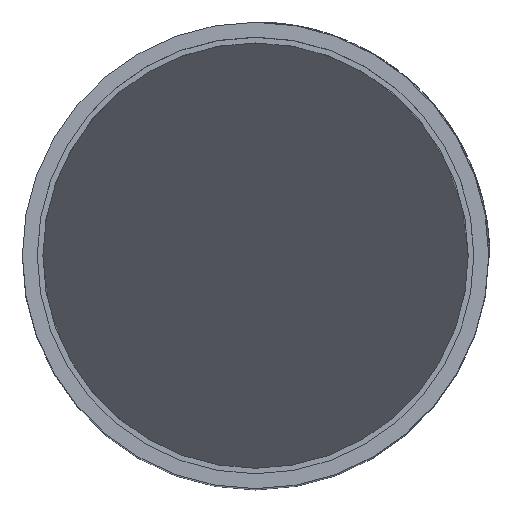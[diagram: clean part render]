
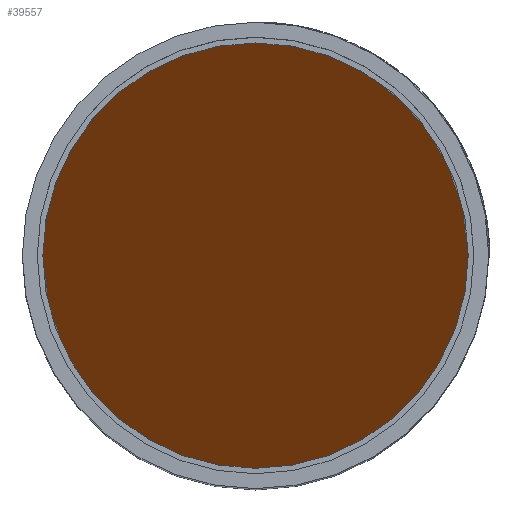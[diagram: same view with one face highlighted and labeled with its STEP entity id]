
A CAD part, top view. The second image highlights one B-rep face of the part: STEP entity #39557.
In plain terms, the highlighted planar face has unit normal (0, -0.707, 0.707).
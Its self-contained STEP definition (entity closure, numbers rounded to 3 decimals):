
#12275 = CARTESIAN_POINT ( 'NONE',  ( 114., 0., 207.828 ) ) ;
#13927 = CARTESIAN_POINT ( 'NONE',  ( 114., 0., 207.828 ) ) ;
#17048 = CARTESIAN_POINT ( 'NONE',  ( 114., -228., -20.172 ) ) ;
#18632 = PLANE ( 'NONE',  #53250 ) ;
#19890 =( BOUNDED_CURVE ( )  B_SPLINE_CURVE ( 3, ( #13927, #38337, #37550, #62822 ),
 .UNSPECIFIED., .F., .F. ) 
 B_SPLINE_CURVE_WITH_KNOTS ( ( 4, 4 ),
 ( 1.571, 4.712 ),
 .UNSPECIFIED. ) 
 CURVE ( )  GEOMETRIC_REPRESENTATION_ITEM ( )  RATIONAL_B_SPLINE_CURVE ( ( 1., 0.333, 0.333, 1. ) ) 
 REPRESENTATION_ITEM ( '' )  );
#23482 = CARTESIAN_POINT ( 'NONE',  ( 356.532, -103.914, 103.914 ) ) ;
#28558 =( BOUNDED_CURVE ( )  B_SPLINE_CURVE ( 3, ( #41877, #42683, #17048, #12275 ),
 .UNSPECIFIED., .F., .T. ) 
 B_SPLINE_CURVE_WITH_KNOTS ( ( 4, 4 ),
 ( 4.712, 7.854 ),
 .UNSPECIFIED. ) 
 CURVE ( )  GEOMETRIC_REPRESENTATION_ITEM ( )  RATIONAL_B_SPLINE_CURVE ( ( 1., 0.333, 0.333, 1. ) ) 
 REPRESENTATION_ITEM ( '' )  );
#29317 = EDGE_LOOP ( 'NONE', ( #38486, #76105 ) ) ;
#37550 = CARTESIAN_POINT ( 'NONE',  ( -114., 228., 435.828 ) ) ;
#38337 = CARTESIAN_POINT ( 'NONE',  ( 114., 228., 435.828 ) ) ;
#38486 = ORIENTED_EDGE ( 'NONE', *, *, #41211, .T. ) ;
#39557 = ADVANCED_FACE ( 'NONE', ( #73255 ), #18632, .F. ) ;
#40068 = VERTEX_POINT ( 'NONE', #62599 ) ;
#41211 = EDGE_CURVE ( 'NONE', #46654, #40068, #28558, .T. ) ;
#41877 = CARTESIAN_POINT ( 'NONE',  ( -114., 0., 207.828 ) ) ;
#42683 = CARTESIAN_POINT ( 'NONE',  ( -114., -228., -20.172 ) ) ;
#42693 = DIRECTION ( 'NONE',  ( 0., 0.707, 0.707 ) ) ;
#46654 = VERTEX_POINT ( 'NONE', #63033 ) ;
#53250 = AXIS2_PLACEMENT_3D ( 'NONE', #23482, #67211, #42693 ) ;
#62599 = CARTESIAN_POINT ( 'NONE',  ( 114., 0., 207.828 ) ) ;
#62822 = CARTESIAN_POINT ( 'NONE',  ( -114., 0., 207.828 ) ) ;
#63033 = CARTESIAN_POINT ( 'NONE',  ( -114., 0., 207.828 ) ) ;
#67211 = DIRECTION ( 'NONE',  ( 0., 0.707, -0.707 ) ) ;
#73255 = FACE_OUTER_BOUND ( 'NONE', #29317, .T. ) ;
#74489 = EDGE_CURVE ( 'NONE', #40068, #46654, #19890, .T. ) ;
#76105 = ORIENTED_EDGE ( 'NONE', *, *, #74489, .T. ) ;
